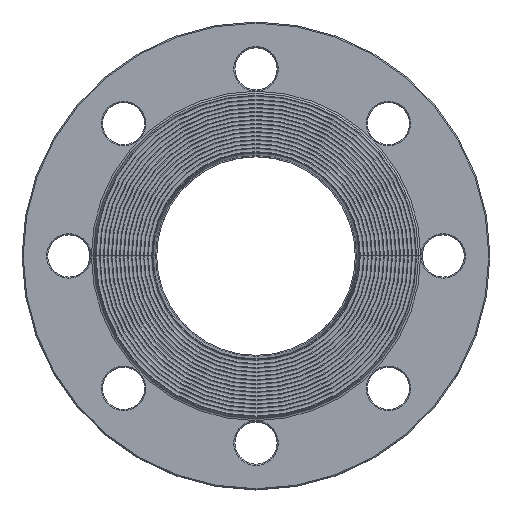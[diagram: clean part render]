
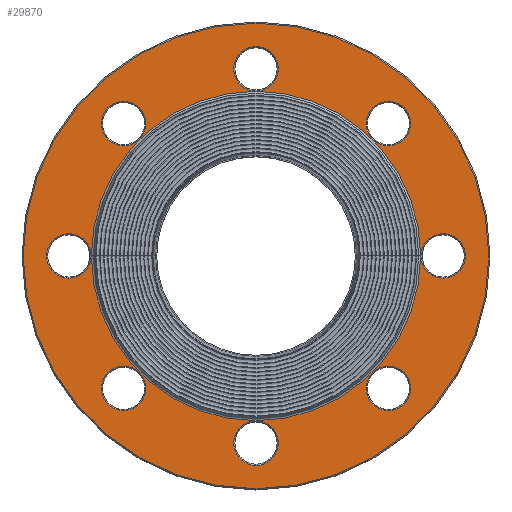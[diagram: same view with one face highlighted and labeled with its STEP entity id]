
A CAD part, top view. The second image highlights one B-rep face of the part: STEP entity #29870.
In plain terms, the highlighted planar face has unit normal (0, 0, 1).
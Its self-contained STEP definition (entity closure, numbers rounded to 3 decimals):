
#25820=CARTESIAN_POINT('',(119.5,190.,18.));
#25830=VERTEX_POINT('',#25820);
#25860=CARTESIAN_POINT('',(110.,190.,18.));
#25870=DIRECTION('',(0.,0.,1.));
#25880=DIRECTION('',(1.,0.,0.));
#25890=AXIS2_PLACEMENT_3D('',#25860,#25870,#25880);
#25900=CIRCLE('',#25890,9.5);
#25910=CARTESIAN_POINT('',(100.5,190.,18.));
#25920=VERTEX_POINT('',#25910);
#25930=EDGE_CURVE('',#25920,#25830,#25900,.T.);
#26250=EDGE_CURVE('',#25830,#25920,#25900,.T.);
#26720=CARTESIAN_POINT('',(176.069,53.431,18.));
#26730=VERTEX_POINT('',#26720);
#26760=CARTESIAN_POINT('',(166.569,53.431,18.));
#26770=DIRECTION('',(0.,0.,1.));
#26780=DIRECTION('',(1.,0.,0.));
#26790=AXIS2_PLACEMENT_3D('',#26760,#26770,#26780);
#26800=CIRCLE('',#26790,9.5);
#26810=CARTESIAN_POINT('',(157.069,53.431,18.));
#26820=VERTEX_POINT('',#26810);
#26830=EDGE_CURVE('',#26820,#26730,#26800,.T.);
#27030=EDGE_CURVE('',#26730,#26820,#26800,.T.);
#27620=CARTESIAN_POINT('',(62.931,53.431,18.));
#27630=VERTEX_POINT('',#27620);
#27660=CARTESIAN_POINT('',(53.431,53.431,18.));
#27670=DIRECTION('',(0.,0.,1.));
#27680=DIRECTION('',(1.,0.,0.));
#27690=AXIS2_PLACEMENT_3D('',#27660,#27670,#27680);
#27700=CIRCLE('',#27690,9.5);
#27710=CARTESIAN_POINT('',(43.931,53.431,18.));
#27720=VERTEX_POINT('',#27710);
#27730=EDGE_CURVE('',#27720,#27630,#27700,.T.);
#28050=EDGE_CURVE('',#27630,#27720,#27700,.T.);
#28650=CARTESIAN_POINT('',(197.049,110.,18.));
#28660=DIRECTION('',(0.,-0.,-1.));
#28670=DIRECTION('',(1.,0.,0.));
#28680=AXIS2_PLACEMENT_3D('',#28650,#28660,#28670);
#28690=PLANE('',#28680);
#28700=ORIENTED_EDGE('',*,*,#26250,.F.);
#28710=ORIENTED_EDGE('',*,*,#25930,.F.);
#28720=EDGE_LOOP('',(#28710,#28700));
#28730=FACE_BOUND('',#28720,.T.);
#28740=CARTESIAN_POINT('',(110.,30.,18.));
#28750=DIRECTION('',(0.,0.,1.));
#28760=DIRECTION('',(1.,0.,0.));
#28770=AXIS2_PLACEMENT_3D('',#28740,#28750,#28760);
#28780=CIRCLE('',#28770,9.5);
#28790=CARTESIAN_POINT('',(119.5,30.,18.));
#28800=VERTEX_POINT('',#28790);
#28810=CARTESIAN_POINT('',(100.5,30.,18.));
#28820=VERTEX_POINT('',#28810);
#28830=EDGE_CURVE('',#28800,#28820,#28780,.T.);
#28840=ORIENTED_EDGE('',*,*,#28830,.F.);
#28850=EDGE_CURVE('',#28820,#28800,#28780,.T.);
#28860=ORIENTED_EDGE('',*,*,#28850,.F.);
#28870=EDGE_LOOP('',(#28860,#28840));
#28880=FACE_BOUND('',#28870,.T.);
#28890=ORIENTED_EDGE('',*,*,#28050,.F.);
#28900=ORIENTED_EDGE('',*,*,#27730,.F.);
#28910=EDGE_LOOP('',(#28900,#28890));
#28920=FACE_BOUND('',#28910,.T.);
#28930=CARTESIAN_POINT('',(30.,110.,18.));
#28940=DIRECTION('',(0.,0.,1.));
#28950=DIRECTION('',(1.,0.,0.));
#28960=AXIS2_PLACEMENT_3D('',#28930,#28940,#28950);
#28970=CIRCLE('',#28960,9.5);
#28980=CARTESIAN_POINT('',(39.5,110.,18.));
#28990=VERTEX_POINT('',#28980);
#29000=CARTESIAN_POINT('',(20.5,110.,18.));
#29010=VERTEX_POINT('',#29000);
#29020=EDGE_CURVE('',#28990,#29010,#28970,.T.);
#29030=ORIENTED_EDGE('',*,*,#29020,.F.);
#29040=EDGE_CURVE('',#29010,#28990,#28970,.T.);
#29050=ORIENTED_EDGE('',*,*,#29040,.F.);
#29060=EDGE_LOOP('',(#29050,#29030));
#29070=FACE_BOUND('',#29060,.T.);
#29080=ORIENTED_EDGE('',*,*,#27030,.F.);
#29090=ORIENTED_EDGE('',*,*,#26830,.F.);
#29100=EDGE_LOOP('',(#29090,#29080));
#29110=FACE_BOUND('',#29100,.T.);
#29120=CARTESIAN_POINT('',(166.569,166.569,18.));
#29130=DIRECTION('',(0.,0.,1.));
#29140=DIRECTION('',(1.,0.,0.));
#29150=AXIS2_PLACEMENT_3D('',#29120,#29130,#29140);
#29160=CIRCLE('',#29150,9.5);
#29170=CARTESIAN_POINT('',(176.069,166.569,18.));
#29180=VERTEX_POINT('',#29170);
#29190=CARTESIAN_POINT('',(157.069,166.569,18.));
#29200=VERTEX_POINT('',#29190);
#29210=EDGE_CURVE('',#29180,#29200,#29160,.T.);
#29220=ORIENTED_EDGE('',*,*,#29210,.F.);
#29230=EDGE_CURVE('',#29200,#29180,#29160,.T.);
#29240=ORIENTED_EDGE('',*,*,#29230,.F.);
#29250=EDGE_LOOP('',(#29240,#29220));
#29260=FACE_BOUND('',#29250,.T.);
#29270=CARTESIAN_POINT('',(110.,110.,18.));
#29280=DIRECTION('',(0.,0.,1.));
#29290=DIRECTION('',(-1.,0.,0.));
#29300=AXIS2_PLACEMENT_3D('',#29270,#29280,#29290);
#29310=CIRCLE('',#29300,70.388);
#29320=CARTESIAN_POINT('',(180.388,110.,18.));
#29330=VERTEX_POINT('',#29320);
#29340=CARTESIAN_POINT('',(39.612,110.,18.));
#29350=VERTEX_POINT('',#29340);
#29360=EDGE_CURVE('',#29330,#29350,#29310,.T.);
#29370=ORIENTED_EDGE('',*,*,#29360,.F.);
#29380=EDGE_CURVE('',#29350,#29330,#29310,.T.);
#29390=ORIENTED_EDGE('',*,*,#29380,.F.);
#29400=EDGE_LOOP('',(#29390,#29370));
#29410=FACE_BOUND('',#29400,.T.);
#29420=CARTESIAN_POINT('',(190.,110.,18.));
#29430=DIRECTION('',(0.,0.,1.));
#29440=DIRECTION('',(1.,0.,0.));
#29450=AXIS2_PLACEMENT_3D('',#29420,#29430,#29440);
#29460=CIRCLE('',#29450,9.5);
#29470=CARTESIAN_POINT('',(199.5,110.,18.));
#29480=VERTEX_POINT('',#29470);
#29490=CARTESIAN_POINT('',(180.5,110.,18.));
#29500=VERTEX_POINT('',#29490);
#29510=EDGE_CURVE('',#29480,#29500,#29460,.T.);
#29520=ORIENTED_EDGE('',*,*,#29510,.F.);
#29530=EDGE_CURVE('',#29500,#29480,#29460,.T.);
#29540=ORIENTED_EDGE('',*,*,#29530,.F.);
#29550=EDGE_LOOP('',(#29540,#29520));
#29560=FACE_BOUND('',#29550,.T.);
#29570=CARTESIAN_POINT('',(53.431,166.569,18.));
#29580=DIRECTION('',(0.,0.,1.));
#29590=DIRECTION('',(1.,0.,0.));
#29600=AXIS2_PLACEMENT_3D('',#29570,#29580,#29590);
#29610=CIRCLE('',#29600,9.5);
#29620=CARTESIAN_POINT('',(62.931,166.569,18.));
#29630=VERTEX_POINT('',#29620);
#29640=CARTESIAN_POINT('',(43.931,166.569,18.));
#29650=VERTEX_POINT('',#29640);
#29660=EDGE_CURVE('',#29630,#29650,#29610,.T.);
#29670=ORIENTED_EDGE('',*,*,#29660,.F.);
#29680=EDGE_CURVE('',#29650,#29630,#29610,.T.);
#29690=ORIENTED_EDGE('',*,*,#29680,.F.);
#29700=EDGE_LOOP('',(#29690,#29670));
#29710=FACE_BOUND('',#29700,.T.);
#29720=CARTESIAN_POINT('',(110.,110.,18.));
#29730=DIRECTION('',(0.,0.,1.));
#29740=DIRECTION('',(1.,0.,0.));
#29750=AXIS2_PLACEMENT_3D('',#29720,#29730,#29740);
#29760=CIRCLE('',#29750,99.5);
#29770=CARTESIAN_POINT('',(209.5,110.,18.));
#29780=VERTEX_POINT('',#29770);
#29790=CARTESIAN_POINT('',(10.5,110.,18.));
#29800=VERTEX_POINT('',#29790);
#29810=EDGE_CURVE('',#29780,#29800,#29760,.T.);
#29820=ORIENTED_EDGE('',*,*,#29810,.T.);
#29830=EDGE_CURVE('',#29800,#29780,#29760,.T.);
#29840=ORIENTED_EDGE('',*,*,#29830,.T.);
#29850=EDGE_LOOP('',(#29840,#29820));
#29860=FACE_OUTER_BOUND('',#29850,.T.);
#29870=ADVANCED_FACE('',(#28730,#28880,#28920,#29070,#29110,#29260,
#29410,#29560,#29710,#29860),#28690,.F.);
